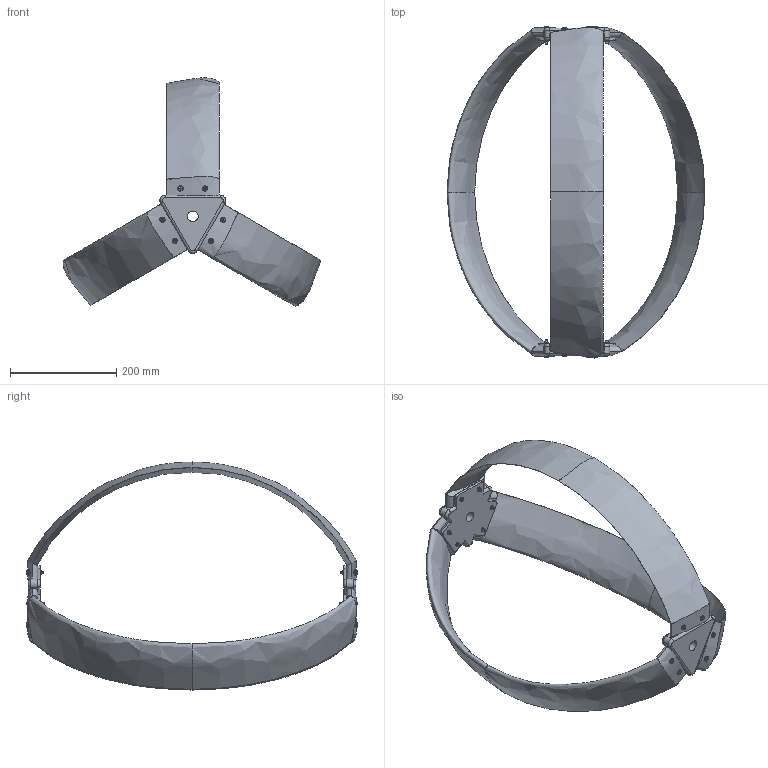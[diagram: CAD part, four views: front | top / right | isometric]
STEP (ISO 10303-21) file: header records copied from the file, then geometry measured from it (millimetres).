
FILE_DESCRIPTION(/* description */ (''),/* implementation_level */ '2;1');
FILE_NAME(/* name */ 'Assieme_darrius_curve.stp',/* time_stamp */ '2025-01-12T17:56:36+01:00',/* author */ ('R5800u'),/* organization */ (''),/* preprocessor_version */ 'ST-DEVELOPER v20',/* originating_system */ 'Autodesk Inventor 2025',/* authorisation */ '');
FILE_SCHEMA (('AUTOMOTIVE_DESIGN { 1 0 10303 214 3 1 1 }'));
Length unit declared in the file: millimetre
Products named in the file (8): Assieme_darrius_curve; darrius_profilo_pala_curva; blocco_curvo1; blocco_curvo1_MIR; AS 1112 - M5; AS 1427 - M5 x 30; AS 1427 - M5 x 25; AS 1112 - M4
Assembly tree (31 placements, depth 2):
  Assieme_darrius_curve
    darrius_profilo_pala_curva  x3
    blocco_curvo1
    blocco_curvo1_MIR
    AS 1427 - M5 x 30  x6
    AS 1427 - M5 x 25  x6
    AS 1112 - M5
    AS 1112 - M4  x13
Bounding box: 485.09 x 624.22 x 428.97 mm (x, y, z)
Volume: 3404304.5 mm3; surface area: 595717.8 mm2
Topology: 31 solids, 31 shells, 850 faces, 2092 edges, 1316 vertices
Faces by surface type: cone 340, plane 284, cylinder 112, torus 66, bspline 36, sphere 12
Full cylindrical faces by diameter (mm): 3.242 x13, 4.134 x1, 4.51 x12, 5 x24, 5.3 x12, 20 x2
Entity records: 11851 total; most frequent: CARTESIAN_POINT 6020, DIRECTION 1180, ORIENTED_EDGE 1128, EDGE_CURVE 564, AXIS2_PLACEMENT_3D 486, VERTEX_POINT 356, EDGE_LOOP 272, CIRCLE 233
